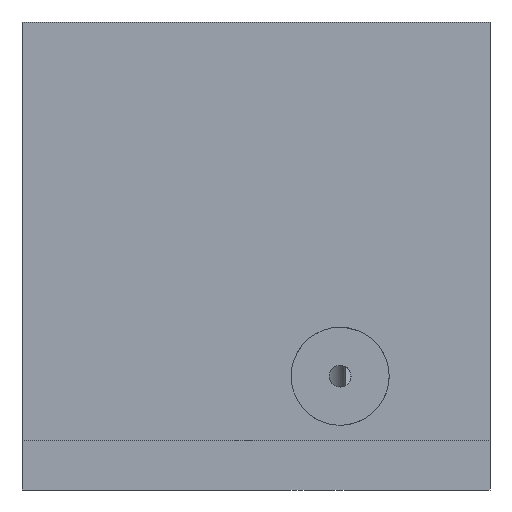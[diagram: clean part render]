
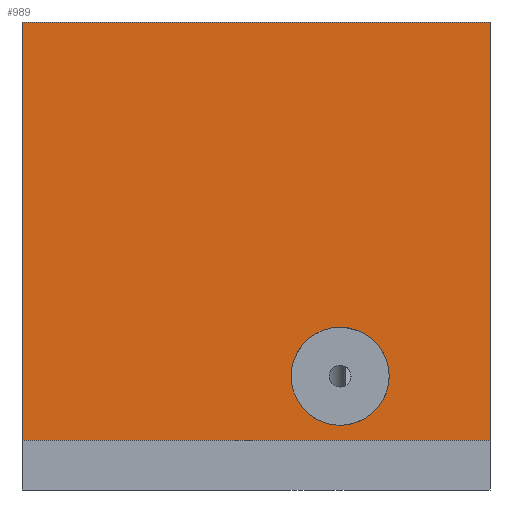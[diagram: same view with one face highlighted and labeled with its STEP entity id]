
A CAD part, left-side view. The second image highlights one B-rep face of the part: STEP entity #989.
In plain terms, the highlighted planar face has unit normal (-1, 0, 0).
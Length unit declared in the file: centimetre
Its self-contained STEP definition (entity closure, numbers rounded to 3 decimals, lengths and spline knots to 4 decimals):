
#33 = EDGE_CURVE ( 'NONE', #1483, #564, #1839, .T. ) ;
#62 = LINE ( 'NONE', #2344, #1348 ) ;
#74 = VERTEX_POINT ( 'NONE', #763 ) ;
#94 = CARTESIAN_POINT ( 'NONE',  ( 0., 1000., 1000. ) ) ;
#143 = EDGE_LOOP ( 'NONE', ( #2153, #183, #1355, #414 ) ) ;
#183 = ORIENTED_EDGE ( 'NONE', *, *, #2267, .F. ) ;
#234 = PLANE ( 'NONE',  #1030 ) ;
#251 = DIRECTION ( 'NONE',  ( 0., 0., -1. ) ) ;
#272 = DIRECTION ( 'NONE',  ( 0., 0., 1. ) ) ;
#361 = FACE_BOUND ( 'NONE', #1340, .T. ) ;
#414 = ORIENTED_EDGE ( 'NONE', *, *, #1462, .F. ) ;
#425 = AXIS2_PLACEMENT_3D ( 'NONE', #690, #1321, #272 ) ;
#546 = CIRCLE ( 'NONE', #887, 104.859 ) ;
#564 = VERTEX_POINT ( 'NONE', #2580 ) ;
#642 = CARTESIAN_POINT ( 'NONE',  ( 0., 320.2077, 347.9567 ) ) ;
#690 = CARTESIAN_POINT ( 'NONE',  ( 0., 320.2077, 243.0978 ) ) ;
#763 = CARTESIAN_POINT ( 'NONE',  ( 0., 320.2077, 138.2388 ) ) ;
#794 = CARTESIAN_POINT ( 'NONE',  ( 0., 0., 1000. ) ) ;
#887 = AXIS2_PLACEMENT_3D ( 'NONE', #2162, #2601, #1753 ) ;
#892 = CIRCLE ( 'NONE', #425, 104.859 ) ;
#989 = ADVANCED_FACE ( 'NONE', ( #361, #1185 ), #234, .F. ) ;
#1030 = AXIS2_PLACEMENT_3D ( 'NONE', #1507, #1897, #251 ) ;
#1088 = DIRECTION ( 'NONE',  ( 0., 1., 0. ) ) ;
#1181 = EDGE_CURVE ( 'NONE', #1464, #74, #546, .T. ) ;
#1185 = FACE_OUTER_BOUND ( 'NONE', #143, .T. ) ;
#1194 = VERTEX_POINT ( 'NONE', #1782 ) ;
#1252 = VECTOR ( 'NONE', #1487, 100. ) ;
#1321 = DIRECTION ( 'NONE',  ( -1., 0., 0. ) ) ;
#1324 = EDGE_CURVE ( 'NONE', #74, #1464, #892, .T. ) ;
#1330 = VECTOR ( 'NONE', #2619, 100. ) ;
#1340 = EDGE_LOOP ( 'NONE', ( #1662, #1354 ) ) ;
#1348 = VECTOR ( 'NONE', #1088, 100. ) ;
#1354 = ORIENTED_EDGE ( 'NONE', *, *, #1324, .F. ) ;
#1355 = ORIENTED_EDGE ( 'NONE', *, *, #33, .F. ) ;
#1462 = EDGE_CURVE ( 'NONE', #1194, #1483, #1720, .T. ) ;
#1464 = VERTEX_POINT ( 'NONE', #642 ) ;
#1483 = VERTEX_POINT ( 'NONE', #2599 ) ;
#1487 = DIRECTION ( 'NONE',  ( 0., -1., 0. ) ) ;
#1507 = CARTESIAN_POINT ( 'NONE',  ( 0., 1000., 1000. ) ) ;
#1555 = VERTEX_POINT ( 'NONE', #1593 ) ;
#1590 = EDGE_CURVE ( 'NONE', #1194, #1555, #2570, .T. ) ;
#1593 = CARTESIAN_POINT ( 'NONE',  ( 0., 1000., 106.4002 ) ) ;
#1662 = ORIENTED_EDGE ( 'NONE', *, *, #1181, .F. ) ;
#1682 = VECTOR ( 'NONE', #2376, 100. ) ;
#1720 = LINE ( 'NONE', #2335, #1252 ) ;
#1753 = DIRECTION ( 'NONE',  ( 0., 0., 1. ) ) ;
#1782 = CARTESIAN_POINT ( 'NONE',  ( 0., 1000., 1000. ) ) ;
#1839 = LINE ( 'NONE', #794, #1330 ) ;
#1897 = DIRECTION ( 'NONE',  ( 1., 0., 0. ) ) ;
#2153 = ORIENTED_EDGE ( 'NONE', *, *, #1590, .T. ) ;
#2162 = CARTESIAN_POINT ( 'NONE',  ( 0., 320.2077, 243.0978 ) ) ;
#2267 = EDGE_CURVE ( 'NONE', #564, #1555, #62, .T. ) ;
#2335 = CARTESIAN_POINT ( 'NONE',  ( 0., 1000., 1000. ) ) ;
#2344 = CARTESIAN_POINT ( 'NONE',  ( 0., 0., 106.4002 ) ) ;
#2376 = DIRECTION ( 'NONE',  ( 0., 0., -1. ) ) ;
#2570 = LINE ( 'NONE', #94, #1682 ) ;
#2580 = CARTESIAN_POINT ( 'NONE',  ( 0., 0., 106.4002 ) ) ;
#2599 = CARTESIAN_POINT ( 'NONE',  ( 0., 0., 1000. ) ) ;
#2601 = DIRECTION ( 'NONE',  ( -1., 0., 0. ) ) ;
#2619 = DIRECTION ( 'NONE',  ( 0., 0., -1. ) ) ;
